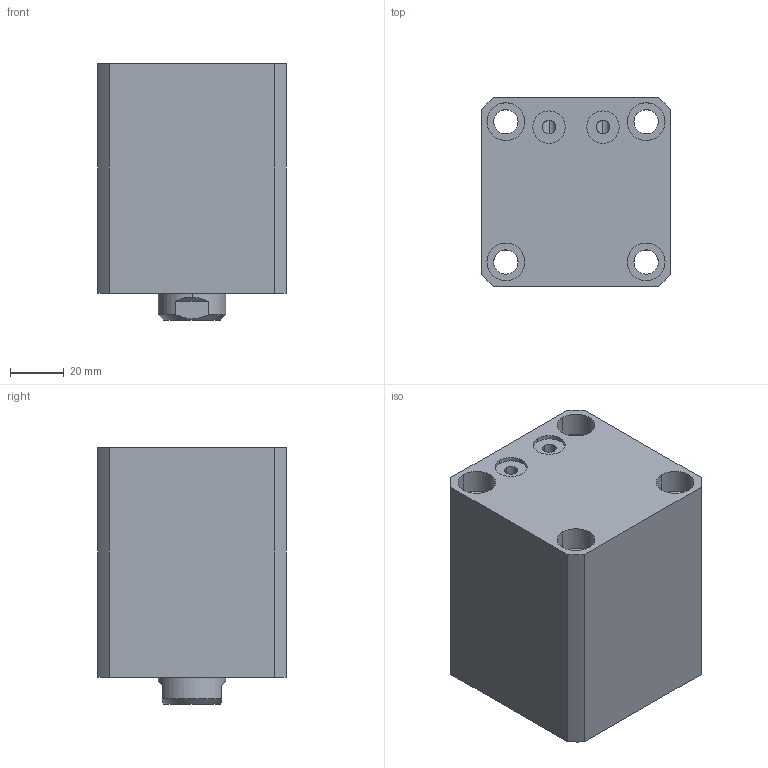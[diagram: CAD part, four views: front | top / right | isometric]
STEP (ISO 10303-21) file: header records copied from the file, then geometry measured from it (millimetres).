
FILE_DESCRIPTION (( 'STEP AP214' ), '1' );
FILE_NAME ('chtb-sdmb40x30n_asm.STEP', '2018-06-07T03:02:19', ( 'Windows' ), ( 'Microsoft' ), 'SwSTEP 2.0', 'SolidWorks 2015', '' );
FILE_SCHEMA (( 'AUTOMOTIVE_DESIGN' ));
Length unit declared in the file: millimetre
Products named in the file (4): CHTB-SDMB40X30NBT; CHTB-SD40X30NHSG; CHTB-SD40QG; chtb-sdmb40x30n_asm
Assembly tree (3 placements, depth 2):
  chtb-sdmb40x30n_asm
    CHTB-SD40QG
    CHTB-SD40X30NHSG
    CHTB-SDMB40X30NBT
Bounding box: 70 x 70 x 95 mm (x, y, z)
Volume: 355545.4 mm3; surface area: 77178 mm2
Topology: 3 solids, 3 shells, 155 faces, 407 edges, 270 vertices
Faces by surface type: cylinder 84, plane 34, bspline 14, torus 14, cone 9
Entity records: 10007 total; most frequent: CARTESIAN_POINT 6085, ORIENTED_EDGE 802, DIRECTION 758, EDGE_CURVE 401, AXIS2_PLACEMENT_3D 322, VERTEX_POINT 270, EDGE_LOOP 191, CIRCLE 175
